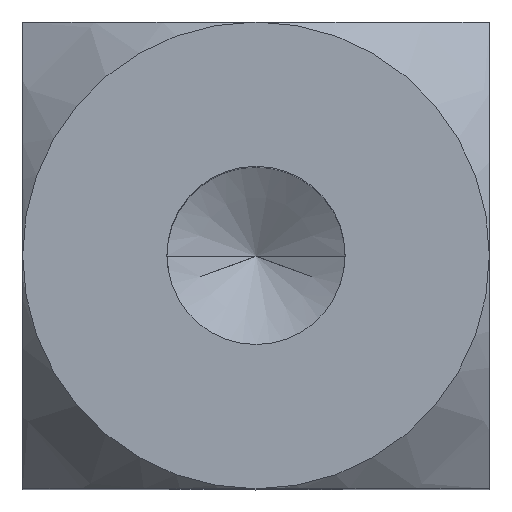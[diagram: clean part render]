
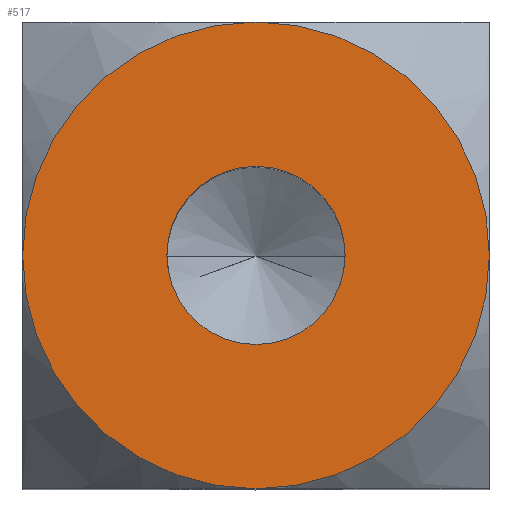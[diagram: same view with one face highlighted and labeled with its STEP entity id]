
A CAD part, top view. The second image highlights one B-rep face of the part: STEP entity #517.
In plain terms, the highlighted planar face has unit normal (0, 0, 1).
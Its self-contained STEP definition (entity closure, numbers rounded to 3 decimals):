
#46 = AXIS2_PLACEMENT_3D ( 'NONE', #112, #265, #108 ) ;
#65 = EDGE_CURVE ( 'NONE', #135, #869, #885, .T. ) ;
#84 = AXIS2_PLACEMENT_3D ( 'NONE', #447, #638, #803 ) ;
#108 = DIRECTION ( 'NONE',  ( -1., 0., 0. ) ) ;
#109 = PLANE ( 'NONE',  #84 ) ;
#112 = CARTESIAN_POINT ( 'NONE',  ( 0., 0., 16. ) ) ;
#135 = VERTEX_POINT ( 'NONE', #348 ) ;
#152 = ORIENTED_EDGE ( 'NONE', *, *, #614, .T. ) ;
#160 = DIRECTION ( 'NONE',  ( 0., 0., 1. ) ) ;
#165 = DIRECTION ( 'NONE',  ( 0., 0., 1. ) ) ;
#213 = CARTESIAN_POINT ( 'NONE',  ( 0., 0., 16. ) ) ;
#218 = CARTESIAN_POINT ( 'NONE',  ( 0., -5.5, 16. ) ) ;
#228 = CIRCLE ( 'NONE', #363, 5.5 ) ;
#230 = ORIENTED_EDGE ( 'NONE', *, *, #412, .T. ) ;
#233 = DIRECTION ( 'NONE',  ( 0., -1., 0. ) ) ;
#261 = CIRCLE ( 'NONE', #46, 5.5 ) ;
#265 = DIRECTION ( 'NONE',  ( 0., 0., 1. ) ) ;
#292 = EDGE_LOOP ( 'NONE', ( #1110, #1077 ) ) ;
#312 = DIRECTION ( 'NONE',  ( 0., 0., 1. ) ) ;
#319 = ORIENTED_EDGE ( 'NONE', *, *, #763, .T. ) ;
#348 = CARTESIAN_POINT ( 'NONE',  ( 2.1, 0., 16. ) ) ;
#359 = AXIS2_PLACEMENT_3D ( 'NONE', #625, #983, #1056 ) ;
#363 = AXIS2_PLACEMENT_3D ( 'NONE', #700, #165, #796 ) ;
#409 = CARTESIAN_POINT ( 'NONE',  ( 0., 0., 16. ) ) ;
#412 = EDGE_CURVE ( 'NONE', #666, #906, #228, .T. ) ;
#436 = CARTESIAN_POINT ( 'NONE',  ( 0., 0., 16. ) ) ;
#447 = CARTESIAN_POINT ( 'NONE',  ( -5.566, -5.566, 16. ) ) ;
#517 = ADVANCED_FACE ( 'NONE', ( #883, #712 ), #109, .T. ) ;
#524 = EDGE_CURVE ( 'NONE', #912, #666, #606, .T. ) ;
#529 = CIRCLE ( 'NONE', #664, 2.1 ) ;
#570 = CIRCLE ( 'NONE', #937, 5.5 ) ;
#593 = DIRECTION ( 'NONE',  ( -1., 0., 0. ) ) ;
#606 = CIRCLE ( 'NONE', #359, 5.5 ) ;
#614 = EDGE_CURVE ( 'NONE', #1039, #912, #261, .T. ) ;
#623 = CARTESIAN_POINT ( 'NONE',  ( -2.1, 0., 16. ) ) ;
#625 = CARTESIAN_POINT ( 'NONE',  ( 0., 0., 16. ) ) ;
#638 = DIRECTION ( 'NONE',  ( 0., 0., 1. ) ) ;
#664 = AXIS2_PLACEMENT_3D ( 'NONE', #213, #312, #233 ) ;
#666 = VERTEX_POINT ( 'NONE', #707 ) ;
#700 = CARTESIAN_POINT ( 'NONE',  ( 0., 0., 16. ) ) ;
#707 = CARTESIAN_POINT ( 'NONE',  ( 0., 5.5, 16. ) ) ;
#712 = FACE_OUTER_BOUND ( 'NONE', #1006, .T. ) ;
#760 = CARTESIAN_POINT ( 'NONE',  ( 5.5, 0., 16. ) ) ;
#763 = EDGE_CURVE ( 'NONE', #906, #1039, #570, .T. ) ;
#796 = DIRECTION ( 'NONE',  ( -1., 0., 0. ) ) ;
#803 = DIRECTION ( 'NONE',  ( 1., 0., 0. ) ) ;
#864 = DIRECTION ( 'NONE',  ( 0., 0., 1. ) ) ;
#869 = VERTEX_POINT ( 'NONE', #623 ) ;
#883 = FACE_BOUND ( 'NONE', #292, .T. ) ;
#885 = CIRCLE ( 'NONE', #1012, 2.1 ) ;
#906 = VERTEX_POINT ( 'NONE', #1008 ) ;
#912 = VERTEX_POINT ( 'NONE', #760 ) ;
#927 = EDGE_CURVE ( 'NONE', #869, #135, #529, .T. ) ;
#937 = AXIS2_PLACEMENT_3D ( 'NONE', #409, #160, #593 ) ;
#983 = DIRECTION ( 'NONE',  ( 0., 0., 1. ) ) ;
#1006 = EDGE_LOOP ( 'NONE', ( #152, #1093, #230, #319 ) ) ;
#1008 = CARTESIAN_POINT ( 'NONE',  ( -5.5, 0., 16. ) ) ;
#1012 = AXIS2_PLACEMENT_3D ( 'NONE', #436, #864, #1120 ) ;
#1039 = VERTEX_POINT ( 'NONE', #218 ) ;
#1056 = DIRECTION ( 'NONE',  ( -1., 0., 0. ) ) ;
#1077 = ORIENTED_EDGE ( 'NONE', *, *, #927, .F. ) ;
#1093 = ORIENTED_EDGE ( 'NONE', *, *, #524, .T. ) ;
#1110 = ORIENTED_EDGE ( 'NONE', *, *, #65, .F. ) ;
#1120 = DIRECTION ( 'NONE',  ( 0., -1., 0. ) ) ;
